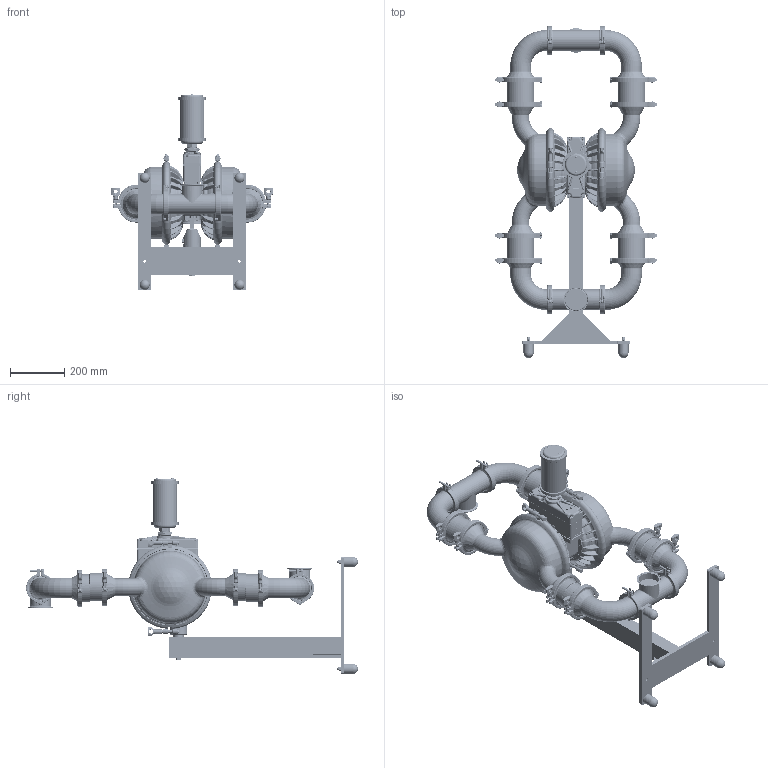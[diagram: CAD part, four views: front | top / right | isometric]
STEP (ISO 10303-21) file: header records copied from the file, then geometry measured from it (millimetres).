
FILE_DESCRIPTION (( 'STEP AP203' ), '1' );
FILE_NAME ('ps15_ss_saniflo_hs_ball_swivel.STEP', '2022-05-20T12:21:40', ( '' ), ( '' ), 'SwSTEP 2.0', 'SolidWorks 2019', '' );
FILE_SCHEMA (( 'CONFIG_CONTROL_DESIGN' ));
Products named in the file (1): ps15_ss_saniflo_hs_ball_swivel
Bounding box: 597.97 x 1221.38 x 721.37 mm (x, y, z)
Volume: 35904770.4 mm3; surface area: 2297132.5 mm2
Topology: 1 solids, 1 shells, 11292 faces, 27887 edges, 16629 vertices
Faces by surface type: plane 3988, bspline 2395, cylinder 2293, torus 1550, cone 628, sphere 438
Entity records: 549664 total; most frequent: CARTESIAN_POINT 301076, ORIENTED_EDGE 55046, DIRECTION 48381, EDGE_CURVE 27523, AXIS2_PLACEMENT_3D 18040, VERTEX_POINT 16557, VECTOR 12301, LINE 12301
